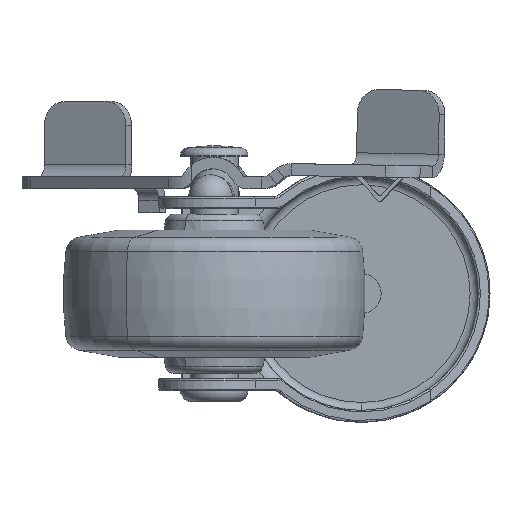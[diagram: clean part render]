
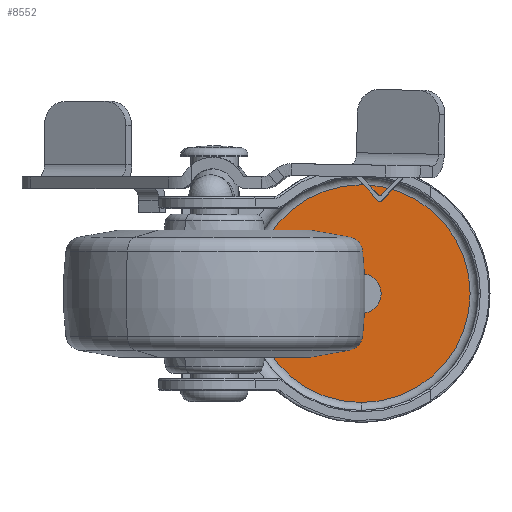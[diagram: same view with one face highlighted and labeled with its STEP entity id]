
A CAD part, front view. The second image highlights one B-rep face of the part: STEP entity #8552.
In plain terms, the highlighted planar face has unit normal (0, -1, 0).
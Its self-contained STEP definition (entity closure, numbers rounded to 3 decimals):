
#122 = CARTESIAN_POINT ( 'NONE',  ( 0., -0.061, 14.7 ) ) ;
#224 = CIRCLE ( 'NONE', #686, 2.5 ) ;
#549 = EDGE_LOOP ( 'NONE', ( #6404, #5926 ) ) ;
#686 = AXIS2_PLACEMENT_3D ( 'NONE', #2223, #1413, #3752 ) ;
#958 = DIRECTION ( 'NONE',  ( 0., 0., -1. ) ) ;
#1413 = DIRECTION ( 'NONE',  ( 0., 1., 0. ) ) ;
#2103 = VERTEX_POINT ( 'NONE', #7742 ) ;
#2108 = CARTESIAN_POINT ( 'NONE',  ( 0., -0.061, 0. ) ) ;
#2223 = CARTESIAN_POINT ( 'NONE',  ( 0., -0.061, 0. ) ) ;
#2428 = EDGE_LOOP ( 'NONE', ( #7350, #2681 ) ) ;
#2561 = EDGE_CURVE ( 'NONE', #2103, #9469, #8908, .T. ) ;
#2681 = ORIENTED_EDGE ( 'NONE', *, *, #4937, .T. ) ;
#2766 = CIRCLE ( 'NONE', #3222, 13.7 ) ;
#2803 = VERTEX_POINT ( 'NONE', #3204 ) ;
#2847 = CARTESIAN_POINT ( 'NONE',  ( 0., -0.061, 13.7 ) ) ;
#3160 = PLANE ( 'NONE',  #6274 ) ;
#3204 = CARTESIAN_POINT ( 'NONE',  ( 0., -0.061, -13.7 ) ) ;
#3222 = AXIS2_PLACEMENT_3D ( 'NONE', #2108, #9611, #8029 ) ;
#3276 = DIRECTION ( 'NONE',  ( 0., 1., 0. ) ) ;
#3752 = DIRECTION ( 'NONE',  ( 0., 0., -1. ) ) ;
#4937 = EDGE_CURVE ( 'NONE', #5822, #2803, #7570, .T. ) ;
#5278 = DIRECTION ( 'NONE',  ( 0., 0., -1. ) ) ;
#5446 = DIRECTION ( 'NONE',  ( 0., 0., -1. ) ) ;
#5822 = VERTEX_POINT ( 'NONE', #2847 ) ;
#5926 = ORIENTED_EDGE ( 'NONE', *, *, #7936, .T. ) ;
#6193 = CARTESIAN_POINT ( 'NONE',  ( 0., -0.061, 0. ) ) ;
#6274 = AXIS2_PLACEMENT_3D ( 'NONE', #122, #7534, #958 ) ;
#6404 = ORIENTED_EDGE ( 'NONE', *, *, #2561, .T. ) ;
#7285 = EDGE_CURVE ( 'NONE', #2803, #5822, #2766, .T. ) ;
#7350 = ORIENTED_EDGE ( 'NONE', *, *, #7285, .T. ) ;
#7408 = CARTESIAN_POINT ( 'NONE',  ( 0., -0.061, 0. ) ) ;
#7534 = DIRECTION ( 'NONE',  ( 0., -1., 0. ) ) ;
#7570 = CIRCLE ( 'NONE', #8914, 13.7 ) ;
#7742 = CARTESIAN_POINT ( 'NONE',  ( 0., -0.061, 2.5 ) ) ;
#7751 = CARTESIAN_POINT ( 'NONE',  ( 0., -0.061, -2.5 ) ) ;
#7936 = EDGE_CURVE ( 'NONE', #9469, #2103, #224, .T. ) ;
#8029 = DIRECTION ( 'NONE',  ( 0., 0., -1. ) ) ;
#8552 = ADVANCED_FACE ( 'NONE', ( #8675, #9254 ), #3160, .T. ) ;
#8675 = FACE_OUTER_BOUND ( 'NONE', #2428, .T. ) ;
#8882 = AXIS2_PLACEMENT_3D ( 'NONE', #6193, #3276, #5446 ) ;
#8908 = CIRCLE ( 'NONE', #8882, 2.5 ) ;
#8914 = AXIS2_PLACEMENT_3D ( 'NONE', #7408, #8993, #5278 ) ;
#8993 = DIRECTION ( 'NONE',  ( 0., -1., 0. ) ) ;
#9254 = FACE_BOUND ( 'NONE', #549, .T. ) ;
#9469 = VERTEX_POINT ( 'NONE', #7751 ) ;
#9611 = DIRECTION ( 'NONE',  ( 0., -1., 0. ) ) ;
